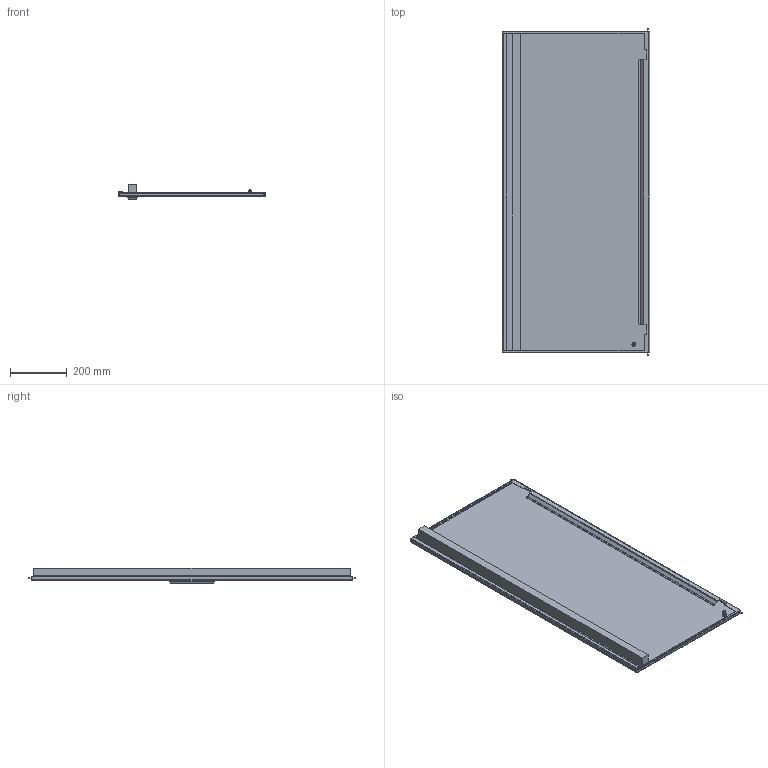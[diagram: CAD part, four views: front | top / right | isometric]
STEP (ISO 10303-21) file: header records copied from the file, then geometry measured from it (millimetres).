
FILE_DESCRIPTION (( 'STEP AP203' ), '1' );
FILE_NAME ('D 120.60 I Äâåðü òåëåêîììóíèêàöèîííàÿ.STEP', '2013-01-11T17:56:59', ( '' ), ( '' ), 'SwSTEP 2.0', 'SolidWorks 2012', '' );
FILE_SCHEMA (( 'CONFIG_CONTROL_DESIGN' ));
Length unit declared in the file: millimetre
Products named in the file (1): D 120.60 I Äâåðü òåëåêîììóíèêàöèîííàÿ
Bounding box: 518 x 1150.5 x 55 mm (x, y, z)
Volume: 2434364.3 mm3; surface area: 1466530.8 mm2
Topology: 3 solids, 3 shells, 175 faces, 406 edges, 226 vertices
Faces by surface type: cylinder 70, plane 65, sphere 24, cone 12, torus 4
Entity records: 4827 total; most frequent: DIRECTION 900, CARTESIAN_POINT 788, ORIENTED_EDGE 772, EDGE_CURVE 386, AXIS2_PLACEMENT_3D 338, VERTEX_POINT 226, LINE 224, VECTOR 224
